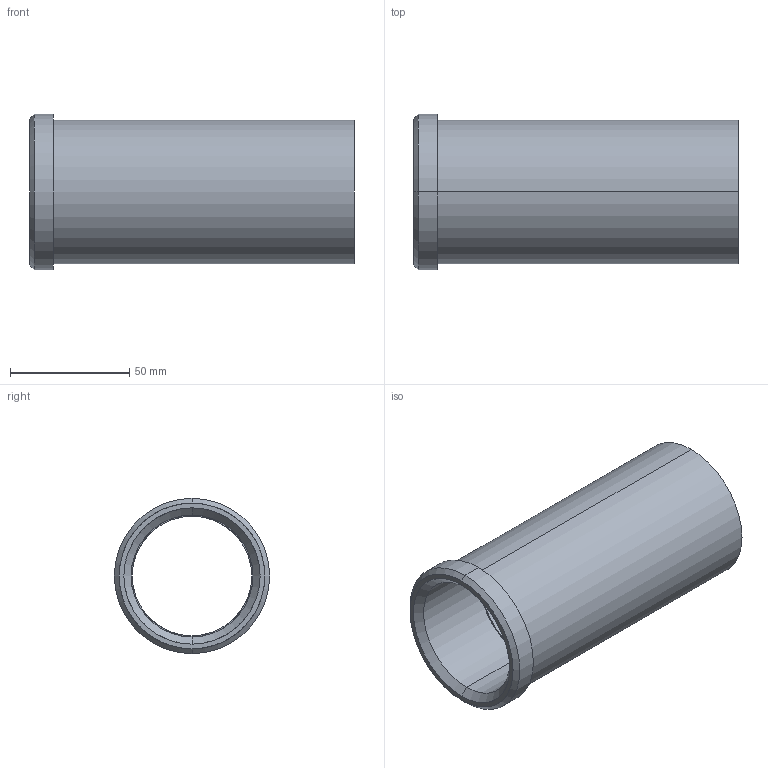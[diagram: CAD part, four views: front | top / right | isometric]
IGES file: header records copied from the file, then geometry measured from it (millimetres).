
Start section: START RECORD GO HERE.
Global section: file name: 353-50X136.igs; native system: DASSAULT SYSTEMES CATIA V5 R20 - www.3ds.com; preprocessor: CATIA Version 5 Release 20 ; author: Utente; organization: NB04-ASUS; date: 20210514.151758; units: millimetre
Bounding box: 136 x 65 x 65 mm (x, y, z)
Surface area: 49330.7 mm2 (no closed solid volume)
Topology: 0 solids, 0 shells, 18 faces, 116 edges, 116 vertices
Faces by surface type: revolution 14, plane 4
